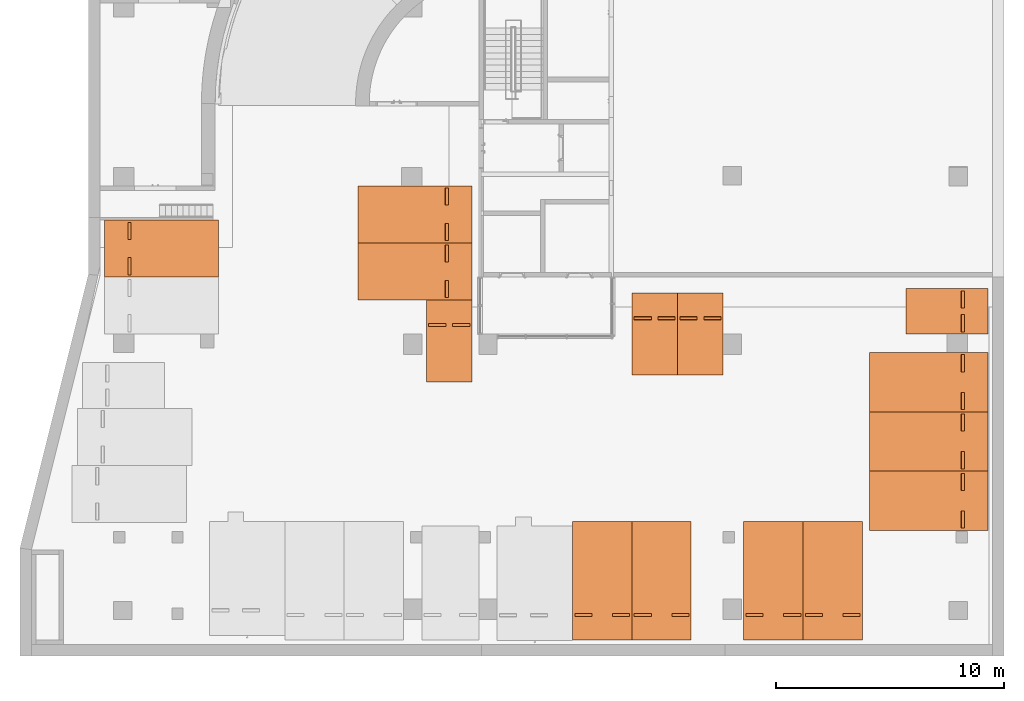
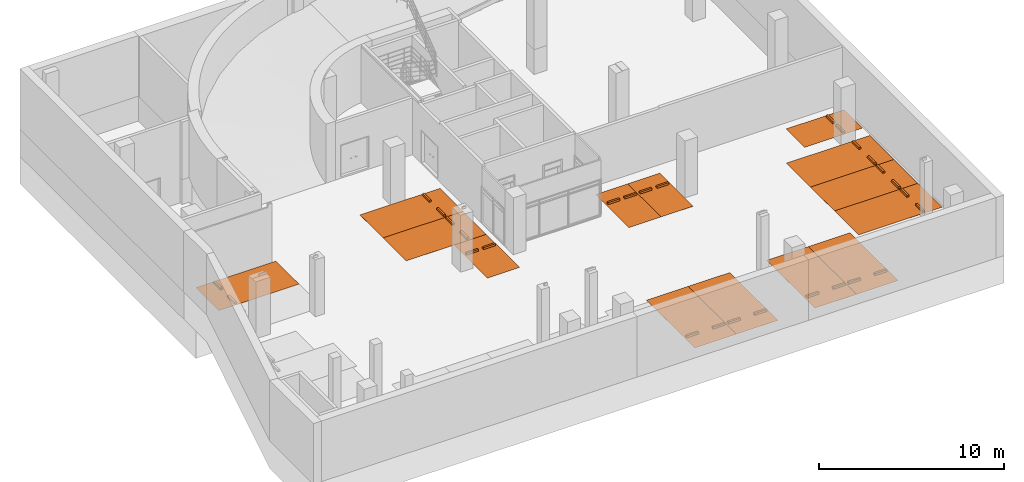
# One storey, part 30 of 30: 14 proxies.
"""IFC2X3 building model written with IfcOpenShell, lengths in millimetres."""

from ifc_helpers import new_model, entity, si_unit, converted_unit, derived_unit, direction, frame, frame_2d, origin, origin_2d_with_axis, place, context, subcontext, project, spatial, polyline, rectangle, outline, extrude, source, transform, mapped, material, material_list, type_object, type_shapes, element, save


model = new_model("IFC2X3")

# Units and contexts
model_context = context("Model", 3, precision=0.01, world=origin(), true_north=direction((6.123031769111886e-17, 1.0)))
body_context = subcontext(model_context, "Body", "Model", "MODEL_VIEW")
ifc_project = project(units=[si_unit("LENGTHUNIT", "METRE", prefix="MILLI"), si_unit("AREAUNIT", "SQUARE_METRE"), si_unit("VOLUMEUNIT", "CUBIC_METRE"), converted_unit("PLANEANGLEUNIT", "DEGREE", entity("IfcRatioMeasure", 0.017453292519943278), si_unit("PLANEANGLEUNIT", "RADIAN"), dimensions=[0, 0, 0, 0, 0, 0, 0]), si_unit("MASSUNIT", "GRAM", prefix="KILO"), derived_unit("MASSDENSITYUNIT", [(si_unit("MASSUNIT", "GRAM", prefix="KILO"), 1), (si_unit("LENGTHUNIT", "METRE"), -3)]), derived_unit("MOMENTOFINERTIAUNIT", [(si_unit("LENGTHUNIT", "METRE"), 4)]), si_unit("TIMEUNIT", "SECOND"), si_unit("FREQUENCYUNIT", "HERTZ"), si_unit("THERMODYNAMICTEMPERATUREUNIT", "DEGREE_CELSIUS"), derived_unit("THERMALTRANSMITTANCEUNIT", [(si_unit("MASSUNIT", "GRAM", prefix="KILO"), 1), (si_unit("THERMODYNAMICTEMPERATUREUNIT", "KELVIN"), -1), (si_unit("TIMEUNIT", "SECOND"), -3)]), derived_unit("VOLUMETRICFLOWRATEUNIT", [(si_unit("LENGTHUNIT", "METRE"), 3), (si_unit("TIMEUNIT", "SECOND"), -1)]), derived_unit("MASSFLOWRATEUNIT", [(si_unit("MASSUNIT", "GRAM", prefix="KILO"), 1), (si_unit("TIMEUNIT", "SECOND"), -1)]), derived_unit("ROTATIONALFREQUENCYUNIT", [(si_unit("TIMEUNIT", "SECOND"), -1)]), si_unit("ELECTRICCURRENTUNIT", "AMPERE"), si_unit("ELECTRICVOLTAGEUNIT", "VOLT"), si_unit("POWERUNIT", "WATT"), si_unit("FORCEUNIT", "NEWTON", prefix="KILO"), si_unit("ILLUMINANCEUNIT", "LUX"), si_unit("LUMINOUSFLUXUNIT", "LUMEN"), si_unit("LUMINOUSINTENSITYUNIT", "CANDELA"), derived_unit("USERDEFINED", [(si_unit("MASSUNIT", "GRAM", prefix="KILO"), -1), (si_unit("LENGTHUNIT", "METRE"), -2), (si_unit("TIMEUNIT", "SECOND"), 3), (si_unit("LUMINOUSFLUXUNIT", "LUMEN"), 1)]), derived_unit("SOUNDPOWERUNIT", [(si_unit("MASSUNIT", "GRAM", prefix="KILO"), 1), (si_unit("LENGTHUNIT", "METRE"), 2), (si_unit("TIMEUNIT", "SECOND"), -3)]), derived_unit("SOUNDPRESSUREUNIT", [(si_unit("MASSUNIT", "GRAM", prefix="KILO"), 1), (si_unit("LENGTHUNIT", "METRE"), -1), (si_unit("TIMEUNIT", "SECOND"), -2)]), derived_unit("LINEARVELOCITYUNIT", [(si_unit("LENGTHUNIT", "METRE"), 1), (si_unit("TIMEUNIT", "SECOND"), -1)]), si_unit("PRESSUREUNIT", "PASCAL"), derived_unit("USERDEFINED", [(si_unit("LENGTHUNIT", "METRE"), -2), (si_unit("MASSUNIT", "GRAM", prefix="KILO"), 1), (si_unit("TIMEUNIT", "SECOND"), -2)]), derived_unit("LINEARFORCEUNIT", [(si_unit("MASSUNIT", "GRAM", prefix="KILO"), 1), (si_unit("LENGTHUNIT", "METRE"), 1), (si_unit("TIMEUNIT", "SECOND"), -2), (si_unit("LENGTHUNIT", "METRE"), -1)]), derived_unit("PLANARFORCEUNIT", [(si_unit("MASSUNIT", "GRAM", prefix="KILO"), 1), (si_unit("LENGTHUNIT", "METRE"), 1), (si_unit("TIMEUNIT", "SECOND"), -2), (si_unit("LENGTHUNIT", "METRE"), -2)])], contexts=[model_context])

# Site, building, storey, space
site_placement = place(None, frame((-14167.972527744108, -657.2125860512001, 0.0)))
site = spatial("IfcSite", under=ifc_project, at=site_placement, Name="Default", CompositionType="ELEMENT")
building_placement = place(site_placement, origin())
building = spatial("IfcBuilding", under=site, at=building_placement, Name="Sample Building", CompositionType="ELEMENT")
storey_placement = place(building_placement, frame((0.0, 0.0, -10100.0)))
storey = spatial("IfcBuildingStorey", under=building, at=storey_placement, Name="지하2층", CompositionType="ELEMENT", Elevation=-10100.0)
space_placement = place(storey_placement, origin())
space = spatial("IfcSpace", under=storey, at=space_placement, Name="125", CompositionType="ELEMENT", InteriorOrExteriorSpace="INTERNAL")

# Proxies
ifc_material_1 = material(Name="KBIMS-고무_검은색")
ifc_material_2 = material(Name="KBIMS-에폭시 페인트")
ifc_material_list_1 = material_list([ifc_material_1, ifc_material_2])
ifc_material_list_2 = material_list([ifc_material_1, ifc_material_1, ifc_material_2])
building_element_proxy_type_1 = type_object("IfcBuildingElementProxyType", Name="SE251-기본주차:SE251-기본주차 일반형", PredefinedType="NOTDEFINED", material=ifc_material_list_2)
shared_shape_1 = source(origin(), body_context, "Body", "SweptSolid", [
    extrude(outline(polyline([(-52.09458852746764, -66.97875667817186), (68.83927769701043, -66.97875667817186), (50.23406750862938, 81.86292482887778), (-66.9787566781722, 52.09458852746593), (-52.09458852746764, -66.97875667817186)])), frame((220.98490989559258, 2900.0, 60.0), z_axis=(1.0, 0.0, 0.0), x_axis=(0.0, -0.12403473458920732, -0.9922778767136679)), (0.0, 0.0, 1.0), 749.9999999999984),
    extrude(outline(polyline([(-68.8392776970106, -66.97875667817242), (52.09458852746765, -66.9787566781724), (66.97875667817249, 52.09458852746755), (-50.234067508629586, 81.86292482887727), (-68.8392776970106, -66.97875667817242)])), frame((-1329.0150901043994, 2900.0, 60.0), z_axis=(1.0, 0.0, 0.0), x_axis=(0.0, -0.12403473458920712, 0.9922778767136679)), (0.0, 0.0, 1.0), 749.9999999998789),
    extrude(rectangle(XDim=2499.9999999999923, YDim=4999.999999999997, at=origin_2d_with_axis()), frame((-179.01509010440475, 1500.0, 0.0), z_axis=(0.0, 0.0, 1.0), x_axis=(-1.0, 0.0, 0.0)), (0.0, 0.0, 1.0), 1.6),
])
type_shapes(building_element_proxy_type_1, [shared_shape_1])
proxy_1_placement = place(space_placement, frame((25767.972491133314, 18128.162041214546, 100.0), z_axis=(0.0, 0.0, 1.0), x_axis=(0.0, -1.0, 0.0)))
element("IfcBuildingElementProxy", 1, at=proxy_1_placement, inside=space, type_object=building_element_proxy_type_1, material=ifc_material_list_1, Name="SE251-기본주차:SE251-기본주차 일반형", ObjectType="SE251-기본주차:SE251-기본주차 일반형", context=body_context, shape_type="MappedRepresentation", body=[
    mapped(shared_shape_1, transform((0.0, 0.0, 0.0), scale=1.0)),
])
ifc_material_list_3 = material_list([ifc_material_1, ifc_material_2])
proxy_2_placement = place(space_placement, frame((25767.972491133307, 15628.162041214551, 100.0), z_axis=(0.0, 0.0, 1.0), x_axis=(0.0, -1.0, 0.0)))
element("IfcBuildingElementProxy", 2, at=proxy_2_placement, inside=space, type_object=building_element_proxy_type_1, material=ifc_material_list_3, Name="SE251-기본주차:SE251-기본주차 일반형", ObjectType="SE251-기본주차:SE251-기본주차 일반형", context=body_context, shape_type="MappedRepresentation", body=[
    mapped(shared_shape_1, transform((0.0, 0.0, 0.0), scale=1.0)),
])
ifc_material_list_4 = material_list([ifc_material_1, ifc_material_2])
ifc_material_list_5 = material_list([ifc_material_1, ifc_material_1, ifc_material_2])
building_element_proxy_type_2 = type_object("IfcBuildingElementProxyType", Name="SE251-기본주차:SE251-기본주차 확장형", PredefinedType="NOTDEFINED", material=ifc_material_list_5)
shared_shape_2 = source(origin(), body_context, "Body", "SweptSolid", [
    extrude(outline(polyline([(-52.09458852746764, -66.97875667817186), (68.83927769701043, -66.97875667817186), (50.23406750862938, 81.86292482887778), (-66.9787566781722, 52.09458852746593), (-52.09458852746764, -66.97875667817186)])), frame((220.98490989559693, 3100.0, 60.0), z_axis=(1.0, 0.0, 0.0), x_axis=(0.0, -0.12403473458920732, -0.9922778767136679)), (0.0, 0.0, 1.0), 749.9999999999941),
    extrude(outline(polyline([(-68.8392776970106, -66.97875667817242), (52.09458852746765, -66.9787566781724), (66.97875667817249, 52.09458852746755), (-50.234067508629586, 81.86292482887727), (-68.8392776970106, -66.97875667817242)])), frame((-1429.0150901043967, 3100.0, 60.0), z_axis=(1.0, 0.0, 0.0), x_axis=(0.0, -0.12403473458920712, 0.9922778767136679)), (0.0, 0.0, 1.0), 749.9999999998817),
    extrude(rectangle(XDim=2599.999999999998, YDim=5200.000000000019, at=origin_2d_with_axis()), frame((-229.015090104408, 1600.0, 0.0), z_axis=(0.0, 0.0, 1.0), x_axis=(-1.0, 0.0, 0.0)), (0.0, 0.0, 1.0), 1.6),
])
type_shapes(building_element_proxy_type_2, [shared_shape_2])
proxy_3_placement = place(space_placement, frame((35238.95740102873, 3857.177244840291, 100.0), z_axis=(0.0, 0.0, 1.0), x_axis=(-1.0, 0.0, 0.0)))
element("IfcBuildingElementProxy", 3, at=proxy_3_placement, inside=space, type_object=building_element_proxy_type_2, material=ifc_material_list_4, Name="SE251-기본주차:SE251-기본주차 확장형", ObjectType="SE251-기본주차:SE251-기본주차 확장형", context=body_context, shape_type="MappedRepresentation", body=[
    mapped(shared_shape_2, transform((0.0, 0.0, 0.0), scale=1.0)),
])
ifc_material_list_6 = material_list([ifc_material_1, ifc_material_2])
proxy_4_placement = place(space_placement, frame((37838.957401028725, 3857.1772448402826, 100.0), z_axis=(0.0, 0.0, 1.0), x_axis=(-1.0, 0.0, 0.0)))
element("IfcBuildingElementProxy", 4, at=proxy_4_placement, inside=space, type_object=building_element_proxy_type_2, material=ifc_material_list_6, Name="SE251-기본주차:SE251-기본주차 확장형", ObjectType="SE251-기본주차:SE251-기본주차 확장형", context=body_context, shape_type="MappedRepresentation", body=[
    mapped(shared_shape_2, transform((0.0, 0.0, 0.0), scale=1.0)),
])
ifc_material_list_7 = material_list([ifc_material_1, ifc_material_2])
proxy_5_placement = place(space_placement, frame((42738.95732128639, 3857.1772448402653, 100.0), z_axis=(0.0, 0.0, 1.0), x_axis=(-1.0, 0.0, 0.0)))
element("IfcBuildingElementProxy", 5, at=proxy_5_placement, inside=space, type_object=building_element_proxy_type_2, material=ifc_material_list_7, Name="SE251-기본주차:SE251-기본주차 확장형", ObjectType="SE251-기본주차:SE251-기본주차 확장형", context=body_context, shape_type="MappedRepresentation", body=[
    mapped(shared_shape_2, transform((0.0, 0.0, 0.0), scale=1.0)),
])
ifc_material_list_8 = material_list([ifc_material_1, ifc_material_2])
proxy_6_placement = place(space_placement, frame((45338.95732128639, 3857.1772448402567, 100.0), z_axis=(0.0, 0.0, 1.0), x_axis=(-1.0, 0.0, 0.0)))
element("IfcBuildingElementProxy", 6, at=proxy_6_placement, inside=space, type_object=building_element_proxy_type_2, material=ifc_material_list_8, Name="SE251-기본주차:SE251-기본주차 확장형", ObjectType="SE251-기본주차:SE251-기본주차 확장형", context=body_context, shape_type="MappedRepresentation", body=[
    mapped(shared_shape_2, transform((0.0, 0.0, 0.0), scale=1.0)),
])
ifc_material_list_9 = material_list([ifc_material_1, ifc_material_2])
proxy_7_placement = place(space_placement, frame((48167.981184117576, 10728.16218999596, 100.0), z_axis=(0.0, 0.0, 1.0), x_axis=(0.0, -1.0, 0.0)))
element("IfcBuildingElementProxy", 7, at=proxy_7_placement, inside=space, type_object=building_element_proxy_type_2, material=ifc_material_list_9, Name="SE251-기본주차:SE251-기본주차 확장형", ObjectType="SE251-기본주차:SE251-기본주차 확장형", context=body_context, shape_type="MappedRepresentation", body=[
    mapped(shared_shape_2, transform((0.0, 0.0, 0.0), scale=1.0)),
])
ifc_material_list_10 = material_list([ifc_material_1, ifc_material_2])
proxy_8_placement = place(space_placement, frame((48167.98118411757, 8128.162189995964, 100.0), z_axis=(0.0, 0.0, 1.0), x_axis=(0.0, -1.0, 0.0)))
element("IfcBuildingElementProxy", 8, at=proxy_8_placement, inside=space, type_object=building_element_proxy_type_2, material=ifc_material_list_10, Name="SE251-기본주차:SE251-기본주차 확장형", ObjectType="SE251-기본주차:SE251-기본주차 확장형", context=body_context, shape_type="MappedRepresentation", body=[
    mapped(shared_shape_2, transform((0.0, 0.0, 0.0), scale=1.0)),
])
ifc_material_list_11 = material_list([ifc_material_1, ifc_material_2])
proxy_9_placement = place(space_placement, frame((48167.98118411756, 5528.16218999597, 100.0), z_axis=(0.0, 0.0, 1.0), x_axis=(0.0, -1.0, 0.0)))
element("IfcBuildingElementProxy", 9, at=proxy_9_placement, inside=space, type_object=building_element_proxy_type_2, material=ifc_material_list_11, Name="SE251-기본주차:SE251-기본주차 확장형", ObjectType="SE251-기본주차:SE251-기본주차 확장형", context=body_context, shape_type="MappedRepresentation", body=[
    mapped(shared_shape_2, transform((0.0, 0.0, 0.0), scale=1.0)),
])
ifc_material_list_12 = material_list([ifc_material_1, ifc_material_1, ifc_material_2])
ifc_material_list_13 = material_list([ifc_material_1, ifc_material_1, ifc_material_2])
building_element_proxy_type_3 = type_object("IfcBuildingElementProxyType", Name="SE251-기본주차:SE251-기본주차 경형", PredefinedType="NOTDEFINED", material=ifc_material_list_13)
shared_shape_3 = source(origin(), body_context, "Body", "SweptSolid", [
    extrude(outline(polyline([(-52.09458852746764, -66.97875667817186), (68.83927769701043, -66.97875667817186), (50.23406750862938, 81.86292482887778), (-66.9787566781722, 52.09458852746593), (-52.09458852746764, -66.97875667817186)])), frame((220.98490989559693, 1500.0, 60.0), z_axis=(1.0, 0.0, 0.0), x_axis=(0.0, -0.12403473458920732, -0.9922778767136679)), (0.0, 0.0, 1.0), 749.9999999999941),
    extrude(outline(polyline([(-68.8392776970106, -66.97875667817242), (52.09458852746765, -66.9787566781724), (66.97875667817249, 52.09458852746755), (-50.234067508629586, 81.86292482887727), (-68.8392776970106, -66.97875667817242)])), frame((-829.0150901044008, 1500.0, 60.0), z_axis=(1.0, 0.0, 0.0), x_axis=(0.0, -0.12403473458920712, 0.9922778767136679)), (0.0, 0.0, 1.0), 749.9999999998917),
    extrude(rectangle(XDim=1999.999999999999, YDim=3600.000000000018, at=frame_2d((-5.684341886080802e-14, 0.0), x_axis=(1.0, 0.0))), frame((70.98490989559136, 800.0, 0.0), z_axis=(0.0, 0.0, 1.0), x_axis=(-1.0, 0.0, 0.0)), (0.0, 0.0, 1.0), 1.6),
])
type_shapes(building_element_proxy_type_3, [shared_shape_3])
proxy_10_placement = place(space_placement, frame((49767.98118411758, 14128.1621020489, 100.0), z_axis=(0.0, 0.0, 1.0), x_axis=(0.0, -1.0, 0.0)))
element("IfcBuildingElementProxy", 10, at=proxy_10_placement, inside=space, type_object=building_element_proxy_type_3, material=ifc_material_list_12, Name="SE251-기본주차:SE251-기본주차 경형", ObjectType="SE251-기본주차:SE251-기본주차 경형", context=body_context, shape_type="MappedRepresentation", body=[
    mapped(shared_shape_3, transform((0.0, 0.0, 0.0), scale=1.0)),
])
ifc_material_list_14 = material_list([ifc_material_1, ifc_material_2])
proxy_11_placement = place(space_placement, frame((28696.9875812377, 11957.177131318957, 100.0)))
element("IfcBuildingElementProxy", 11, at=proxy_11_placement, inside=space, type_object=building_element_proxy_type_3, material=ifc_material_list_14, Name="SE251-기본주차:SE251-기본주차 경형", ObjectType="SE251-기본주차:SE251-기본주차 경형", context=body_context, shape_type="MappedRepresentation", body=[
    mapped(shared_shape_3, transform((0.0, 0.0, 0.0), scale=1.0)),
])
ifc_material_list_15 = material_list([ifc_material_1, ifc_material_2])
proxy_12_placement = place(space_placement, frame((37696.987581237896, 12257.177193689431, 100.0)))
element("IfcBuildingElementProxy", 12, at=proxy_12_placement, inside=space, type_object=building_element_proxy_type_3, material=ifc_material_list_15, Name="SE251-기본주차:SE251-기본주차 경형", ObjectType="SE251-기본주차:SE251-기본주차 경형", context=body_context, shape_type="MappedRepresentation", body=[
    mapped(shared_shape_3, transform((0.0, 0.0, 0.0), scale=1.0)),
])
ifc_material_list_16 = material_list([ifc_material_1, ifc_material_2])
proxy_13_placement = place(space_placement, frame((39696.987581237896, 12257.177193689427, 100.0)))
element("IfcBuildingElementProxy", 13, at=proxy_13_placement, inside=space, type_object=building_element_proxy_type_3, material=ifc_material_list_16, Name="SE251-기본주차:SE251-기본주차 경형", ObjectType="SE251-기본주차:SE251-기본주차 경형", context=body_context, shape_type="MappedRepresentation", body=[
    mapped(shared_shape_3, transform((0.0, 0.0, 0.0), scale=1.0)),
])
ifc_material_list_17 = material_list([ifc_material_1, ifc_material_2])
ifc_material_list_18 = material_list([ifc_material_1, ifc_material_1, ifc_material_2])
building_element_proxy_type_4 = type_object("IfcBuildingElementProxyType", Name="SE251-기본주차:SE251-기본주차 일반형", PredefinedType="NOTDEFINED", material=ifc_material_list_18)
shared_shape_4 = source(origin(), body_context, "Body", "SweptSolid", [
    extrude(outline(polyline([(-60.0, -60.0), (60.0, -60.0), (75.0, 60.0), (-75.0, 60.0), (-60.0, -60.0)])), frame((220.98490989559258, -2900.0, 60.0), z_axis=(1.0, 0.0, 0.0), x_axis=(0.0, -1.0, 0.0)), (0.0, 0.0, 1.0), 749.9999999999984),
    extrude(outline(polyline([(-75.0, -60.0), (75.0, -60.0), (60.0, 60.0), (-60.0, 60.0), (-75.0, -60.0)])), frame((-1329.0150901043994, -2900.0, 60.0), z_axis=(1.0, 0.0, 0.0), x_axis=(0.0, 1.0, 0.0)), (0.0, 0.0, 1.0), 749.999999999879),
    extrude(rectangle(XDim=4999.999999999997, YDim=2499.9999999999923, at=origin_2d_with_axis()), frame((-179.01509010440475, -1500.0, 0.0), z_axis=(0.0, 0.0, 1.0), x_axis=(0.0, 1.0, 0.0)), (0.0, 0.0, 1.0), 1.6),
])
type_shapes(building_element_proxy_type_4, [shared_shape_4])
proxy_14_placement = place(space_placement, frame((17664.34207337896, 16628.16210204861, 100.0), z_axis=(0.0, 0.0, 1.0), x_axis=(0.0, -1.0, 0.0)))
element("IfcBuildingElementProxy", 14, at=proxy_14_placement, inside=space, type_object=building_element_proxy_type_4, material=ifc_material_list_17, Name="SE251-기본주차:SE251-기본주차 일반형", ObjectType="SE251-기본주차:SE251-기본주차 일반형", context=body_context, shape_type="MappedRepresentation", body=[
    mapped(shared_shape_4, transform((0.0, 0.0, 0.0), scale=1.0)),
])

save(model, "model.ifc")
